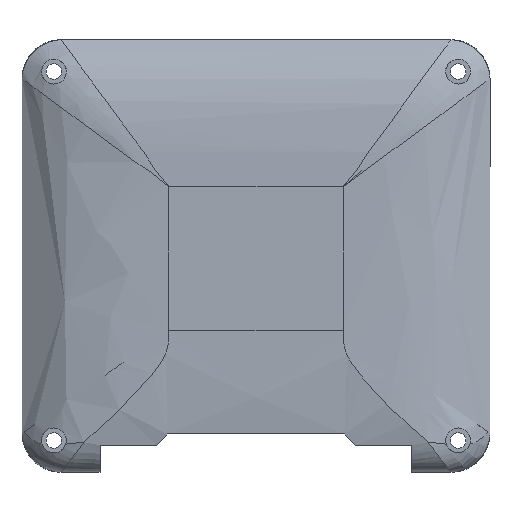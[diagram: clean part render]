
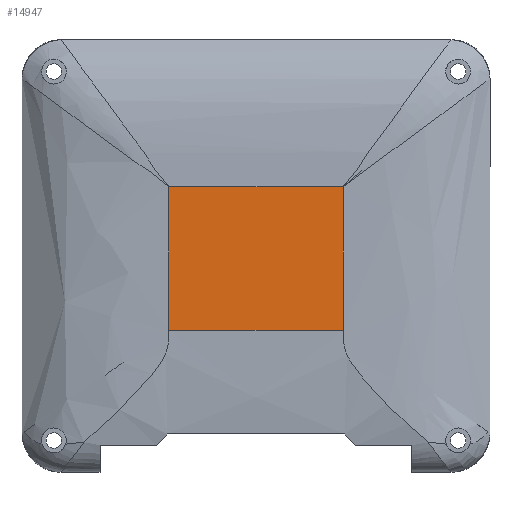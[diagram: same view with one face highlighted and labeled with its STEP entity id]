
A CAD part, front view. The second image highlights one B-rep face of the part: STEP entity #14947.
In plain terms, the highlighted planar face has unit normal (0, -1, 0).
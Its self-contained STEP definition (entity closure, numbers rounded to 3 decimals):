
#326 = PLANE ( 'NONE',  #5224 ) ;
#658 = LINE ( 'NONE', #6017, #1264 ) ;
#1264 = VECTOR ( 'NONE', #15481, 1000. ) ;
#3979 = VECTOR ( 'NONE', #6288, 1000. ) ;
#3995 = CARTESIAN_POINT ( 'NONE',  ( 12.283, -18., 9.783 ) ) ;
#5224 = AXIS2_PLACEMENT_3D ( 'NONE', #17403, #5889, #21105 ) ;
#5281 = EDGE_CURVE ( 'NONE', #12820, #17731, #11158, .T. ) ;
#5344 = EDGE_CURVE ( 'NONE', #12820, #24262, #8458, .T. ) ;
#5793 = CARTESIAN_POINT ( 'NONE',  ( -12.283, -18., -10.5 ) ) ;
#5794 = EDGE_CURVE ( 'NONE', #17368, #17731, #658, .T. ) ;
#5889 = DIRECTION ( 'NONE',  ( 0., -1., 0. ) ) ;
#6017 = CARTESIAN_POINT ( 'NONE',  ( 12.283, -18., 31.6 ) ) ;
#6024 = FACE_OUTER_BOUND ( 'NONE', #6236, .T. ) ;
#6122 = CARTESIAN_POINT ( 'NONE',  ( -33., -18., -10.5 ) ) ;
#6236 = EDGE_LOOP ( 'NONE', ( #6717, #8551, #11321, #19964 ) ) ;
#6288 = DIRECTION ( 'NONE',  ( 0., 0., 1. ) ) ;
#6610 = CARTESIAN_POINT ( 'NONE',  ( -12.283, -18., 9.783 ) ) ;
#6717 = ORIENTED_EDGE ( 'NONE', *, *, #5344, .F. ) ;
#8197 = CARTESIAN_POINT ( 'NONE',  ( -12.283, -18., 25. ) ) ;
#8458 = LINE ( 'NONE', #8197, #3979 ) ;
#8551 = ORIENTED_EDGE ( 'NONE', *, *, #5281, .T. ) ;
#11158 = LINE ( 'NONE', #6122, #12057 ) ;
#11321 = ORIENTED_EDGE ( 'NONE', *, *, #5794, .F. ) ;
#12057 = VECTOR ( 'NONE', #23267, 1000. ) ;
#12820 = VERTEX_POINT ( 'NONE', #5793 ) ;
#14947 = ADVANCED_FACE ( 'NONE', ( #6024 ), #326, .T. ) ;
#15481 = DIRECTION ( 'NONE',  ( 0., 0., -1. ) ) ;
#17368 = VERTEX_POINT ( 'NONE', #3995 ) ;
#17403 = CARTESIAN_POINT ( 'NONE',  ( -27.5, -18., 25. ) ) ;
#17731 = VERTEX_POINT ( 'NONE', #24301 ) ;
#19593 = CARTESIAN_POINT ( 'NONE',  ( -34.1, -18., 9.783 ) ) ;
#19750 = DIRECTION ( 'NONE',  ( 1., 0., 0. ) ) ;
#19964 = ORIENTED_EDGE ( 'NONE', *, *, #24046, .F. ) ;
#21105 = DIRECTION ( 'NONE',  ( 0., 0., -1. ) ) ;
#22835 = VECTOR ( 'NONE', #19750, 1000. ) ;
#23146 = LINE ( 'NONE', #19593, #22835 ) ;
#23267 = DIRECTION ( 'NONE',  ( 1., 0., 0. ) ) ;
#24046 = EDGE_CURVE ( 'NONE', #24262, #17368, #23146, .T. ) ;
#24262 = VERTEX_POINT ( 'NONE', #6610 ) ;
#24301 = CARTESIAN_POINT ( 'NONE',  ( 12.283, -18., -10.5 ) ) ;
